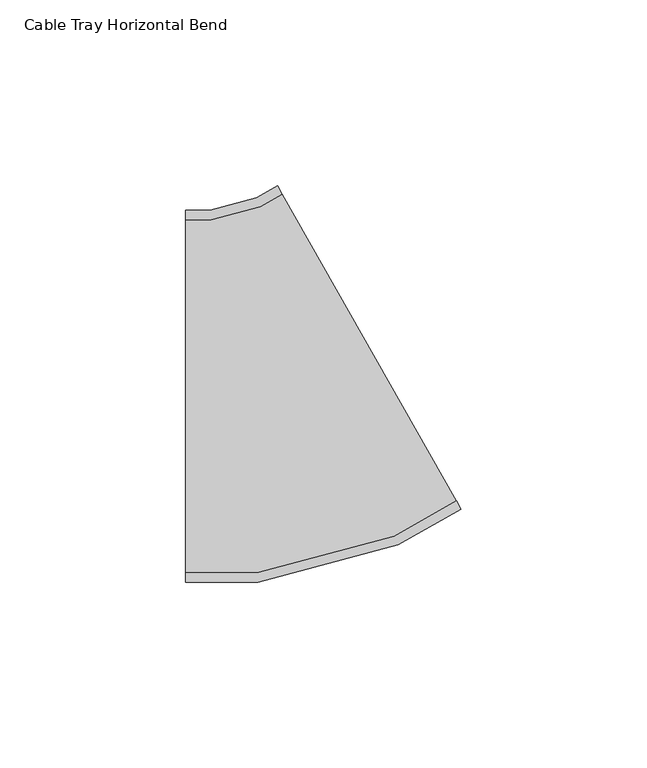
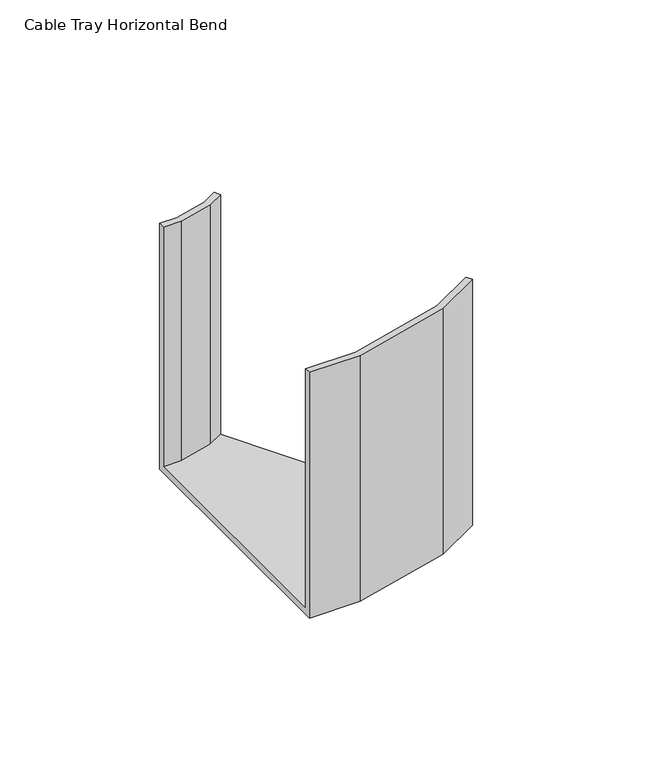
"""IFC4 building model written with IfcOpenShell, lengths in millimetres: cable carrier fitting geometry, Cable Tray Horizontal Bend : ELEC_ELV_TKG_N2402."""

import ifcopenshell
import ifcopenshell.guid

model = None  # the IFC model being written
_history = None  # IfcOwnerHistory: only IFC2X3 demands one
_inside = {}  # id of a spatial element -> (the spatial element, [elements in it])
_under = {}  # id of a project, library or spatial element -> (it, [spatial elements below it])
_declared = {}  # id of a project -> (the project, [libraries it declares])
_typed = {}  # id of a type object -> (the type object, [elements of that type])
_made_of = {}  # id of a material, layer set ... -> (it, [elements and type objects made of it])


def new_model(schema):
    """Start an empty IFC model of exactly this schema.

    Asked for "IFC4X3", IfcOpenShell would pick the latest addendum, in which some entities
    have other attributes; the version numbers below select the first issue.
    IFC2X3 requires an IfcOwnerHistory on every rooted entity: one is made here for all.
    """
    global model, _history
    if schema == "IFC4X3":
        model = ifcopenshell.file(schema_version=(4, 3, 0, 0))
    else:
        model = ifcopenshell.file(schema=schema)
    _inside.clear()
    _under.clear()
    _declared.clear()
    _typed.clear()
    _made_of.clear()
    _history = None
    if model.schema == "IFC2X3":
        org = make("IfcOrganization", Name="unknown")
        user = make(
            "IfcPersonAndOrganization",
            ThePerson=make("IfcPerson", FamilyName="unknown"),
            TheOrganization=org,
        )
        app = make(
            "IfcApplication",
            ApplicationDeveloper=org,
            Version="unknown",
            ApplicationFullName="unknown",
            ApplicationIdentifier="unknown",
        )
        _history = make(
            "IfcOwnerHistory",
            OwningUser=user,
            OwningApplication=app,
            ChangeAction="ADDED",
            CreationDate=0,
        )
    return model


def make(cls, **values):
    """One entity of the class cls with the attributes given. An attribute that is None is left unset."""
    return model.create_entity(
        cls, **{name: value for name, value in values.items() if value is not None}
    )


def rooted(cls, **values):
    """An entity with a GlobalId (a new one), such as an element, a storey or a relation."""
    return make(cls, GlobalId=ifcopenshell.guid.new(), OwnerHistory=_history, **values)


def si_unit(unit_type, name, prefix=None):
    """IfcSIUnit, for example si_unit("LENGTHUNIT", "METRE", prefix="MILLI")."""
    return make("IfcSIUnit", UnitType=unit_type, Prefix=prefix, Name=name)


def assignment(units):
    """IfcUnitAssignment: the units of a project."""
    return None if units is None else make("IfcUnitAssignment", Units=units)


def point(xyz):
    """IfcCartesianPoint."""
    return None if xyz is None else make("IfcCartesianPoint", Coordinates=xyz)


def direction(xyz):
    """IfcDirection."""
    return None if xyz is None else make("IfcDirection", DirectionRatios=xyz)


def frame(location, z_axis=None, x_axis=None):
    """IfcAxis2Placement3D, a coordinate frame: its origin and axes. An axis left out is left unset."""
    return make(
        "IfcAxis2Placement3D",
        Location=point(location),
        Axis=direction(z_axis),
        RefDirection=direction(x_axis),
    )


def origin():
    """The frame at (0, 0, 0) with its axes left unset."""
    return frame((0.0, 0.0, 0.0))


def place(relative_to, where):
    """IfcLocalPlacement: puts the frame where relative to a parent placement (None: the world)."""
    return make(
        "IfcLocalPlacement", PlacementRelTo=relative_to, RelativePlacement=where
    )


def context(
    kind, dimensions, precision=None, world=None, true_north=None, identifier=None
):
    """IfcGeometricRepresentationContext, for example the 3D "Model" context."""
    return make(
        "IfcGeometricRepresentationContext",
        ContextIdentifier=identifier,
        ContextType=kind,
        CoordinateSpaceDimension=dimensions,
        Precision=precision,
        WorldCoordinateSystem=world,
        TrueNorth=true_north,
    )


def project(units=None, contexts=None):
    """IfcProject with its units and contexts."""
    return rooted(
        "IfcProject",
        Name="project",
        RepresentationContexts=contexts,
        UnitsInContext=assignment(units),
    )


def spatial(cls, under=None, at=None, **own):
    """A site, building, storey or space (cls), placed at a placement, below another one or the project."""
    s = rooted(cls, ObjectPlacement=at, **own)
    if under is not None:
        _under.setdefault(under.id(), (under, []))[1].append(s)
    return s


def faces_of(points, faces, orient=None, outer=None):
    """IfcFace entities. A face is a list of loops; a loop is a list of indices into points, from 0.

    orient and outer hold one flag for each loop. By default every Orientation is true, the
    first loop of a face is its IfcFaceOuterBound and the others are IfcFaceBound.
    """
    made = []
    for i, loops in enumerate(faces):
        bounds = []
        for j, loop in enumerate(loops):
            is_outer = j == 0 if outer is None else outer[i][j]
            bounds.append(
                make(
                    "IfcFaceOuterBound" if is_outer else "IfcFaceBound",
                    Bound=make("IfcPolyLoop", Polygon=[points[k] for k in loop]),
                    Orientation=True if orient is None else orient[i][j],
                )
            )
        made.append(make("IfcFace", Bounds=bounds))
    return made


def faceted_brep(points, faces, orient=None, outer=None, voids=None):
    """IfcFacetedBrep: a solid bounded by flat faces; with voids (closed shells), ...WithVoids."""
    shared = [point(p) for p in points]
    hull = make("IfcClosedShell", CfsFaces=faces_of(shared, faces, orient, outer))
    if voids is None:
        return make("IfcFacetedBrep", Outer=hull)
    return make(
        "IfcFacetedBrepWithVoids",
        Outer=hull,
        Voids=[
            make(cls, CfsFaces=faces_of(shared, fs, o, b)) for cls, fs, o, b in voids
        ],
    )


def shape(context_of_items, identifier, shape_type, items):
    """IfcShapeRepresentation: the items that make up one representation, for example the "Body"."""
    return make(
        "IfcShapeRepresentation",
        ContextOfItems=context_of_items,
        RepresentationIdentifier=identifier,
        RepresentationType=shape_type,
        Items=items,
    )


def source(mapping_origin, context_of_items, identifier, shape_type, items):
    """IfcRepresentationMap: a shape defined once, which mapped items show again and again."""
    return make(
        "IfcRepresentationMap",
        MappingOrigin=mapping_origin,
        MappedRepresentation=shape(context_of_items, identifier, shape_type, items),
    )


def transform(
    local_origin,
    x_axis=None,
    y_axis=None,
    z_axis=None,
    scale=None,
    scale2=None,
    scale3=None,
    uniform=True,
):
    """IfcCartesianTransformationOperator3D, or its non-uniform kind. x_axis, y_axis, z_axis: its Axis1, 2, 3."""
    if uniform:
        return make(
            "IfcCartesianTransformationOperator3D",
            Axis1=direction(x_axis),
            Axis2=direction(y_axis),
            LocalOrigin=point(local_origin),
            Scale=scale,
            Axis3=direction(z_axis),
        )
    return make(
        "IfcCartesianTransformationOperator3DnonUniform",
        Axis1=direction(x_axis),
        Axis2=direction(y_axis),
        LocalOrigin=point(local_origin),
        Scale=scale,
        Axis3=direction(z_axis),
        Scale2=scale2,
        Scale3=scale3,
    )


def mapped(mapping_source, mapping_target):
    """IfcMappedItem: shows the shape of a source again, moved by a transform."""
    return make(
        "IfcMappedItem", MappingSource=mapping_source, MappingTarget=mapping_target
    )


def made_of(thing, what):
    """Note that an element or type object is made of a material, layer set ...; save() writes the relation."""
    if what is not None:
        _made_of.setdefault(what.id(), (what, []))[1].append(thing)
    return thing


def element(
    cls,
    number,
    at=None,
    inside=None,
    cuts=None,
    type_object=None,
    material=None,
    context=None,
    identifier="Body",
    shape_type=None,
    held_by="IfcProductDefinitionShape",
    body=None,
    shapes=None,
    **own,
):
    """One element of the class cls, such as IfcWall. Its Tag is "e" and its number.

    at: its placement. inside: the storey or other place that contains it. cuts: it is an
    opening in that element (IfcRelVoidsElement). A single representation is given by context,
    identifier, shape_type and body (its items); several are given by shapes. held_by: the class
    of the entity that holds the representations. save() writes the other relations.
    """
    e = rooted(cls, Tag="e%d" % number, ObjectPlacement=at, **own)
    if body is not None:
        shapes = [shape(context, identifier, shape_type, body)]
    if shapes is not None:
        e.Representation = make(held_by, Representations=shapes)
    if inside is not None:
        _inside.setdefault(inside.id(), (inside, []))[1].append(e)
    if cuts is not None:
        rooted(
            "IfcRelVoidsElement", RelatingBuildingElement=cuts, RelatedOpeningElement=e
        )
    if type_object is not None:
        _typed.setdefault(type_object.id(), (type_object, []))[1].append(e)
    return made_of(e, material)


def aggregate(whole, parts):
    """IfcRelAggregates: a whole, such as a stair, and the parts it consists of."""
    return rooted("IfcRelAggregates", RelatingObject=whole, RelatedObjects=parts)


def save(model, path):
    """Write the relations noted so far, then the file.

    IfcRelAggregates (storeys below a building ...), IfcRelContainedInSpatialStructure (elements
    in a storey), IfcRelDefinesByType, IfcRelAssociatesMaterial and IfcRelDeclares: one each for
    every whole, place, type object, material and project.
    """
    for whole, parts in _under.values():
        aggregate(whole, parts)
    for where, things in _inside.values():
        rooted(
            "IfcRelContainedInSpatialStructure",
            RelatedElements=things,
            RelatingStructure=where,
        )
    for kind, things in _typed.values():
        rooted("IfcRelDefinesByType", RelatedObjects=things, RelatingType=kind)
    for what, things in _made_of.values():
        rooted("IfcRelAssociatesMaterial", RelatedObjects=things, RelatingMaterial=what)
    for by, libraries in _declared.values():
        rooted("IfcRelDeclares", RelatingContext=by, RelatedDefinitions=libraries)
    model.write(path)


def cable_tray_horizontal_bend_1fa5dd4e(model_context):
    return source(origin(), model_context, "Body", "Brep", [
        faceted_brep([(-26.4264423, -50.0, -50.0), (-26.4264423, -50.0, 50.0), (-26.4264423, -47.46, 50.0), (-26.4264423, -47.46, -47.46), (-26.4264423, 47.46, -47.46), (-26.4264423, 47.46, 50.0), (-26.4264423, 50.0, 50.0), (-26.4264423, 50.0, -50.0), (47.6777664, -30.416894, -50.0), (-1.7250394, 56.527702, -50.0), (-1.7250394, 56.527702, 50.0), (-0.4702081, 54.3193093, 50.0), (-0.4702081, 54.3193093, -47.46), (46.4229352, -28.2085013, -47.46), (46.4229352, -28.2085013, 50.0), (47.6777664, -30.416894, 50.0), (-6.9410636, -50.0, -50.0), (-6.9410636, -50.0, 50.0), (30.7362826, -40.0432178, 50.0), (29.7683272, -37.6718193, 50.0), (-7.271016, -47.46, 50.0), (-7.271016, -47.46, -47.46), (29.7683272, -37.6718193, -47.46), (-6.4042452, 50.9475289, -47.46), (-19.6013637, 47.46, -47.46), (-19.6013637, 47.46, 50.0), (-6.4042452, 50.9475289, 50.0), (-7.3722007, 53.3189274, 50.0), (-19.9313161, 50.0, 50.0), (-19.9313161, 50.0, -50.0), (-7.3722007, 53.3189274, -50.0), (30.7362826, -40.0432178, -50.0)], [[[0, 1, 2, 3, 4, 5, 6, 7]], [[8, 9, 10, 11, 12, 13, 14, 15]], [[1, 0, 16, 17]], [[2, 1, 17, 18, 15, 14, 19, 20]], [[3, 2, 20, 21]], [[4, 3, 21, 22, 13, 12, 23, 24]], [[5, 4, 24, 25]], [[6, 5, 25, 26, 11, 10, 27, 28]], [[7, 6, 28, 29]], [[0, 7, 29, 30, 9, 8, 31, 16]], [[17, 16, 31, 18]], [[21, 20, 19, 22]], [[25, 24, 23, 26]], [[29, 28, 27, 30]], [[18, 31, 8, 15]], [[22, 19, 14, 13]], [[26, 23, 12, 11]], [[30, 27, 10, 9]]]),
    ])


if __name__ == "__main__":
    model = new_model("IFC4")
    model_context = context("Model", 3, world=origin())
    ifc_project = project(units=[si_unit("LENGTHUNIT", "METRE", prefix="MILLI")], contexts=[model_context])
    site = spatial("IfcSite", under=ifc_project)
    building = spatial("IfcBuilding", under=site)
    placement = place(None, origin())
    cable_tray_horizontal_bend_shape = cable_tray_horizontal_bend_1fa5dd4e(model_context)
    element("IfcCableCarrierFitting", 1, ObjectType="Cable Tray Horizontal Bend : ELEC_ELV_TKG_N2402", at=placement, inside=building, context=model_context, shape_type="MappedRepresentation", body=[
        mapped(cable_tray_horizontal_bend_shape, transform((0.0, 0.0, 0.0), x_axis=(1.0, 0.0, 0.0), y_axis=(0.0, 1.0, 0.0), z_axis=(0.0, 0.0, 1.0))),
    ])
    save(model, "model.ifc")
